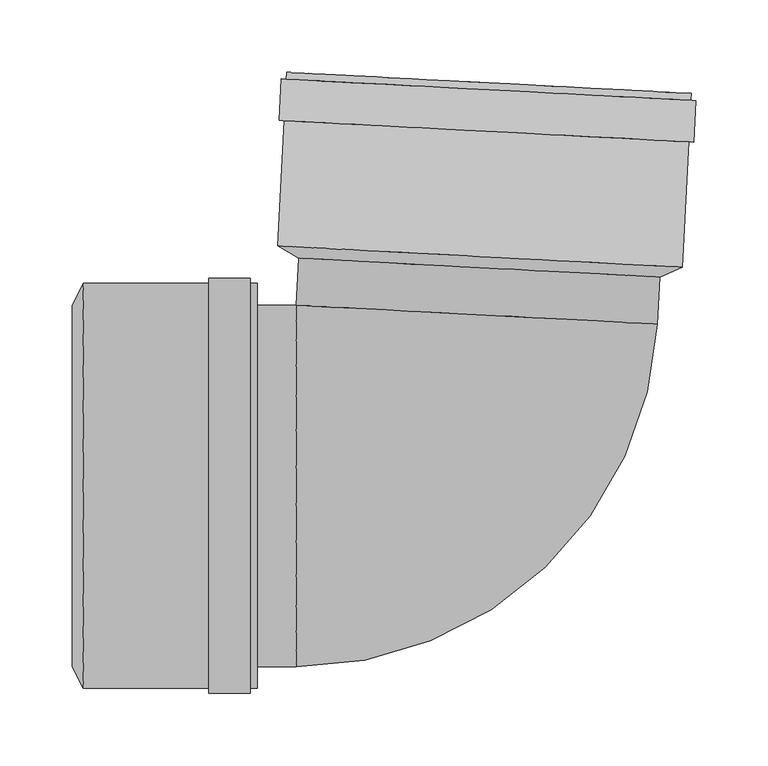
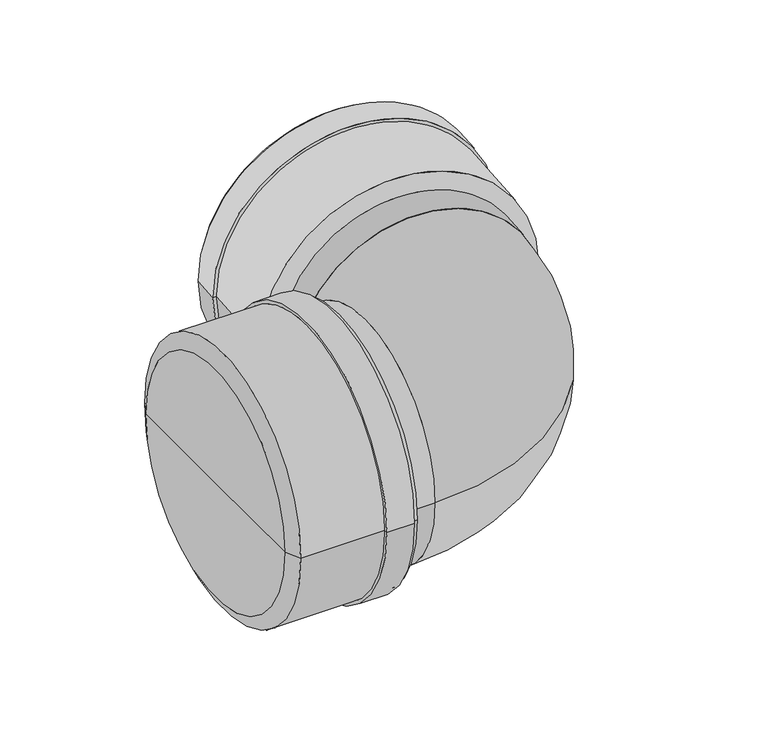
"""IFC4 building model written with IfcOpenShell, lengths in millimetres: pipe fitting geometry, pf_KGB : pf_KGB."""

from ifc_helpers import new_model, si_unit, point, frame, origin, origin_2d, place, context, project, spatial, polyline, circle_curve, ellipse_curve, trimmed, segment, composite_curve, outline, extrude, source, transform, mapped, element, save
from ifc_brep_helpers import plane_surface, cylinder_surface, revolved_surface, advanced_brep


def pipe_fitting_071e107d(model_context):
    return source(origin(), model_context, "Body", "SolidModel", [
        advanced_brep(
        [(132.7418884, 144.4507911, 0.0), (-116.9154953, 157.5347802, 0.0), (-131.5918144, 166.0145005, 0.0), (148.2241813, 151.3499656, 0.0), (7.9131966, 150.9927857, 0.0), (154.5201968, 271.4850986, 0.0), (-125.2957988, 286.1496336, 0.0), (-110.2164929, 285.3593606, 0.0), (139.4408908, 272.2753716, 0.0), (-125.5470114, 281.3562118, 0.0), (154.2689842, 266.6916769, 0.0), (-128.9423518, 281.5341541, 0.0), (157.6643246, 266.5137346, 0.0), (-130.4443938, 252.8734864, 0.0), (156.1622827, 237.853067, 0.0), (-127.0490534, 252.6955442, 0.0), (152.7669423, 238.0310092, 0.0), (133.1448753, 152.1402385, 0.0), (-116.5125084, 165.2242276, 0.0), (8.3161834, 158.6822331, 0.0)],
        [
            (0, 1, circle_curve(frame((7.9131966, 150.9927857, 0.0), z_axis=(0.05233595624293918, 0.9986295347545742, 0.0), x_axis=(-0.9986295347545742, 0.05233595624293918, 0.0)), 125.0)),
            (1, 2),
            (2, 3, circle_curve(frame((8.3161834, 158.6822331, 0.0), z_axis=(-0.05233595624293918, -0.9986295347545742, 0.0), x_axis=(-0.9986295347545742, 0.05233595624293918, 0.0)), 140.1)),
            (3, 0),
            (1, 0, circle_curve(frame((7.9131966, 150.9927857, 0.0), z_axis=(0.05233595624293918, 0.9986295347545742, 0.0), x_axis=(-0.9986295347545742, 0.05233595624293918, 0.0)), 125.0)),
            (3, 2, circle_curve(frame((8.3161834, 158.6822331, 0.0), z_axis=(-0.05233595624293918, -0.9986295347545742, 0.0), x_axis=(-0.9986295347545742, 0.05233595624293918, 0.0)), 140.1)),
            (4, 1),
            (0, 4),
            (5, 6, circle_curve(frame((14.612199, 278.8173661, 0.0), z_axis=(0.05233595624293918, 0.9986295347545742, 0.0), x_axis=(-0.9986295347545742, 0.05233595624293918, 0.0)), 140.1)),
            (6, 7),
            (7, 8, circle_curve(frame((14.612199, 278.8173661, 0.0), z_axis=(-0.05233595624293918, -0.9986295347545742, 0.0), x_axis=(-0.9986295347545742, 0.05233595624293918, 0.0)), 125.0)),
            (8, 5),
            (9, 10, circle_curve(frame((14.3609864, 274.0239443, 0.0), z_axis=(0.05233595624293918, 0.9986295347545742, 0.0), x_axis=(-0.9986295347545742, 0.05233595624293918, 0.0)), 140.1)),
            (10, 5),
            (5, 6, circle_curve(frame((14.612199, 278.8173661, 0.0), z_axis=(-0.05233595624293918, -0.9986295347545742, 0.0), x_axis=(-0.9986295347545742, 0.05233595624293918, 0.0)), 140.1)),
            (6, 9),
            (11, 12, circle_curve(frame((14.3609864, 274.0239443, 0.0), z_axis=(0.05233595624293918, 0.9986295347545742, 0.0), x_axis=(-0.9986295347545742, 0.05233595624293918, 0.0)), 143.5)),
            (12, 10),
            (9, 11),
            (13, 14, circle_curve(frame((12.8589444, 245.3632767, 0.0), z_axis=(0.05233595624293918, 0.9986295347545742, 0.0), x_axis=(-0.9986295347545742, 0.05233595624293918, 0.0)), 143.5)),
            (14, 12),
            (11, 13),
            (15, 16, circle_curve(frame((12.8589444, 245.3632767, 0.0), z_axis=(0.05233595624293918, 0.9986295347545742, 0.0), x_axis=(-0.9986295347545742, 0.05233595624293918, 0.0)), 140.1)),
            (16, 14),
            (13, 15),
            (8, 7, circle_curve(frame((14.612199, 278.8173661, 0.0), z_axis=(-0.05233595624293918, -0.9986295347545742, 0.0), x_axis=(-0.9986295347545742, 0.05233595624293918, 0.0)), 125.0)),
            (10, 9, circle_curve(frame((14.3609864, 274.0239443, 0.0), z_axis=(0.05233595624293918, 0.9986295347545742, 0.0), x_axis=(-0.9986295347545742, 0.05233595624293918, 0.0)), 140.1)),
            (12, 11, circle_curve(frame((14.3609864, 274.0239443, 0.0), z_axis=(0.05233595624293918, 0.9986295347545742, 0.0), x_axis=(-0.9986295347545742, 0.05233595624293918, 0.0)), 143.5)),
            (14, 13, circle_curve(frame((12.8589444, 245.3632767, 0.0), z_axis=(0.05233595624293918, 0.9986295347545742, 0.0), x_axis=(-0.9986295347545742, 0.05233595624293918, 0.0)), 143.5)),
            (16, 15, circle_curve(frame((12.8589444, 245.3632767, 0.0), z_axis=(0.05233595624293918, 0.9986295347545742, 0.0), x_axis=(-0.9986295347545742, 0.05233595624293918, 0.0)), 140.1)),
            (2, 15),
            (16, 3),
            (17, 18, circle_curve(frame((8.3161834, 158.6822331, 0.0), z_axis=(0.05233595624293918, 0.9986295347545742, 0.0), x_axis=(-0.9986295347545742, 0.05233595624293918, 0.0)), 125.0)),
            (18, 19),
            (19, 17),
            (18, 17, circle_curve(frame((8.3161834, 158.6822331, 0.0), z_axis=(0.05233595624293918, 0.9986295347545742, 0.0), x_axis=(-0.9986295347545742, 0.05233595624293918, 0.0)), 125.0)),
            (7, 18),
            (17, 8),
        ],
        [
            revolved_surface(polyline([(-131.5918144, 166.0145005, 0.0), (-116.9154953, 157.5347802, 0.0)]), (7.9131966, 150.9927857, 0.0), (-0.05233595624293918, -0.9986295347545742, 0.0)),
            plane_surface(frame((7.9131966, 150.9927857, 0.0), z_axis=(-0.05233595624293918, -0.9986295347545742, 0.0), x_axis=(-0.9986295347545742, 0.05233595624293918, 0.0))),
            plane_surface(frame((14.612199, 278.8173661, 0.0), z_axis=(0.05233595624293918, 0.9986295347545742, 0.0), x_axis=(-0.9986295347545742, 0.05233595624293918, 0.0))),
            cylinder_surface(frame((7.9131966, 150.9927857, 0.0), z_axis=(-0.05233595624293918, -0.9986295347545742, 0.0), x_axis=(-0.9986295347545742, 0.05233595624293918, 0.0)), 140.1),
            plane_surface(frame((14.3609864, 274.0239443, 0.0), z_axis=(0.05233595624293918, 0.9986295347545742, 0.0), x_axis=(-0.9986295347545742, 0.05233595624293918, 0.0))),
            cylinder_surface(frame((7.9131966, 150.9927857, 0.0), z_axis=(-0.05233595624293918, -0.9986295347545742, 0.0), x_axis=(-0.9986295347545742, 0.05233595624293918, 0.0)), 143.5),
            plane_surface(frame((12.8589444, 245.3632767, 0.0), z_axis=(-0.05233595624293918, -0.9986295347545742, 0.0), x_axis=(-0.9986295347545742, 0.05233595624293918, 0.0))),
            plane_surface(frame((8.3161834, 158.6822331, 0.0), z_axis=(0.05233595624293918, 0.9986295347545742, 0.0), x_axis=(-0.9986295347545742, 0.05233595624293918, 0.0))),
            revolved_surface(polyline([(-116.51250838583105, 165.2242275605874, 0.0), (-110.21649284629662, 285.3593606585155, 0.0)]), (7.9131966, 150.9927857, 0.0), (-0.05233595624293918, -0.9986295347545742, 0.0)),
        ],
        [
            (0, [[1, 2, 3, 4]]),
            (0, [[5, -4, 6, -2]]),
            (1, [[7, -1, 8]]),
            (1, [[-8, -5, -7]]),
            (2, [[9, 10, 11, 12]]),
            (3, [[13, 14, 15, 16]]),
            (4, [[17, 18, -13, 19]]),
            (5, [[20, 21, -17, 22]]),
            (6, [[23, 24, -20, 25]]),
            (2, [[-15, -12, 26, -10]]),
            (3, [[27, -16, -9, -14]]),
            (4, [[28, -19, -27, -18]]),
            (5, [[29, -22, -28, -21]]),
            (6, [[30, -25, -29, -24]]),
            (3, [[-3, 31, -30, 32]]),
            (3, [[-6, -32, -23, -31]]),
            (7, [[33, 34, 35]]),
            (7, [[36, -35, -34]]),
            (8, [[-11, 37, -33, 38]]),
            (8, [[-26, -38, -36, -37]]),
        ],
    ),
        advanced_brep(
        [(-273.7, -125.0, 0.0), (-273.7, 125.0, 0.0), (-266.0, 140.1, 0.0), (-266.0, -140.1, 0.0), (-273.7, 0.0, 0.0), (-145.7, -140.1, 0.0), (-145.7, 140.1, 0.0), (-145.7, 125.0, 0.0), (-145.7, -125.0, 0.0), (-150.5, 140.1, 0.0), (-150.5, -140.1, 0.0), (-150.5, 143.5, 0.0), (-150.5, -143.5, 0.0), (-179.2, 143.5, 0.0), (-179.2, -143.5, 0.0), (-179.2, 140.1, 0.0), (-179.2, -140.1, 0.0), (-266.0, -125.0, 0.0), (-266.0, 125.0, 0.0), (-266.0, 0.0, 0.0)],
        [
            (0, 1, circle_curve(frame((-273.7, 0.0, 0.0), z_axis=(1.0, 0.0, 0.0), x_axis=(0.0, 1.0, 0.0)), 125.0)),
            (1, 2),
            (2, 3, circle_curve(frame((-266.0, 0.0, 0.0), z_axis=(-1.0, 0.0, 0.0), x_axis=(0.0, 1.0, 0.0)), 140.1)),
            (3, 0),
            (1, 0, circle_curve(frame((-273.7, 0.0, 0.0), z_axis=(1.0, 0.0, 0.0), x_axis=(0.0, 1.0, 0.0)), 125.0)),
            (3, 2, circle_curve(frame((-266.0, 0.0, 0.0), z_axis=(-1.0, 0.0, 0.0), x_axis=(0.0, 1.0, 0.0)), 140.1)),
            (4, 1),
            (0, 4),
            (5, 6, circle_curve(frame((-145.7, 0.0, 0.0), z_axis=(1.0, 0.0, 0.0), x_axis=(0.0, 1.0, 0.0)), 140.1)),
            (6, 7),
            (7, 8, circle_curve(frame((-145.7, 0.0, 0.0), z_axis=(-1.0, 0.0, 0.0), x_axis=(0.0, 1.0, 0.0)), 125.0)),
            (8, 5),
            (9, 10, circle_curve(frame((-150.5, 0.0, 0.0), z_axis=(1.0, 0.0, 0.0), x_axis=(0.0, 1.0, 0.0)), 140.1)),
            (10, 5),
            (5, 6, circle_curve(frame((-145.7, 0.0, 0.0), z_axis=(-1.0, 0.0, 0.0), x_axis=(0.0, 1.0, 0.0)), 140.1)),
            (6, 9),
            (11, 12, circle_curve(frame((-150.5, 0.0, 0.0), z_axis=(1.0, 0.0, 0.0), x_axis=(0.0, 1.0, 0.0)), 143.5)),
            (12, 10),
            (9, 11),
            (13, 14, circle_curve(frame((-179.2, 0.0, 0.0), z_axis=(1.0, 0.0, 0.0), x_axis=(0.0, 1.0, 0.0)), 143.5)),
            (14, 12),
            (11, 13),
            (15, 16, circle_curve(frame((-179.2, 0.0, 0.0), z_axis=(1.0, 0.0, 0.0), x_axis=(0.0, 1.0, 0.0)), 140.1)),
            (16, 14),
            (13, 15),
            (8, 7, circle_curve(frame((-145.7, 0.0, 0.0), z_axis=(-1.0, 0.0, 0.0), x_axis=(0.0, 1.0, 0.0)), 125.0)),
            (10, 9, circle_curve(frame((-150.5, 0.0, 0.0), z_axis=(1.0, 0.0, 0.0), x_axis=(0.0, 1.0, 0.0)), 140.1)),
            (12, 11, circle_curve(frame((-150.5, 0.0, 0.0), z_axis=(1.0, 0.0, 0.0), x_axis=(0.0, 1.0, 0.0)), 143.5)),
            (14, 13, circle_curve(frame((-179.2, 0.0, 0.0), z_axis=(1.0, 0.0, 0.0), x_axis=(0.0, 1.0, 0.0)), 143.5)),
            (16, 15, circle_curve(frame((-179.2, 0.0, 0.0), z_axis=(1.0, 0.0, 0.0), x_axis=(0.0, 1.0, 0.0)), 140.1)),
            (2, 15),
            (16, 3),
            (17, 18, circle_curve(frame((-266.0, 0.0, 0.0), z_axis=(1.0, 0.0, 0.0), x_axis=(0.0, 1.0, 0.0)), 125.0)),
            (18, 19),
            (19, 17),
            (18, 17, circle_curve(frame((-266.0, 0.0, 0.0), z_axis=(1.0, 0.0, 0.0), x_axis=(0.0, 1.0, 0.0)), 125.0)),
            (7, 18),
            (17, 8),
        ],
        [
            revolved_surface(polyline([(-266.0, 140.1, 0.0), (-273.7, 125.0, 0.0)]), (-273.7, 0.0, 0.0), (-1.0, 0.0, 0.0)),
            plane_surface(frame((-273.7, 0.0, 0.0), z_axis=(-1.0, 0.0, 0.0), x_axis=(0.0, 1.0, 0.0))),
            plane_surface(frame((-145.7, 0.0, 0.0), z_axis=(1.0, 0.0, 0.0), x_axis=(0.0, 1.0, 0.0))),
            cylinder_surface(frame((-273.7, 0.0, 0.0), z_axis=(-1.0, 0.0, 0.0), x_axis=(0.0, 1.0, 0.0)), 140.1),
            plane_surface(frame((-150.5, 0.0, 0.0), z_axis=(1.0, 0.0, 0.0), x_axis=(0.0, 1.0, 0.0))),
            cylinder_surface(frame((-273.7, 0.0, 0.0), z_axis=(-1.0, 0.0, 0.0), x_axis=(0.0, 1.0, 0.0)), 143.5),
            plane_surface(frame((-179.2, 0.0, 0.0), z_axis=(-1.0, 0.0, 0.0), x_axis=(0.0, 1.0, 0.0))),
            plane_surface(frame((-266.0, 0.0, 0.0), z_axis=(1.0, 0.0, 0.0), x_axis=(0.0, 1.0, 0.0))),
            revolved_surface(polyline([(-266.0, 125.0, 0.0), (-145.7, 125.0, 0.0)]), (-273.7, 0.0, 0.0), (-1.0, 0.0, 0.0)),
        ],
        [
            (0, [[1, 2, 3, 4]]),
            (0, [[5, -4, 6, -2]]),
            (1, [[7, -1, 8]]),
            (1, [[-8, -5, -7]]),
            (2, [[9, 10, 11, 12]]),
            (3, [[13, 14, 15, 16]]),
            (4, [[17, 18, -13, 19]]),
            (5, [[20, 21, -17, 22]]),
            (6, [[23, 24, -20, 25]]),
            (2, [[-15, -12, 26, -10]]),
            (3, [[27, -16, -9, -14]]),
            (4, [[28, -19, -27, -18]]),
            (5, [[29, -22, -28, -21]]),
            (6, [[30, -25, -29, -24]]),
            (3, [[-3, 31, -30, 32]]),
            (3, [[-6, -32, -23, -31]]),
            (7, [[33, 34, 35]]),
            (7, [[36, -35, -34]]),
            (8, [[-11, 37, -33, 38]]),
            (8, [[-26, -38, -36, -37]]),
        ],
    ),
        extrude(outline(composite_curve([segment(trimmed(circle_curve(origin_2d(), 125.0), [point((0.0, -125.0))], [point((0.0, 125.0))], False, "CARTESIAN"), True, "CONTINUOUS"), segment(trimmed(circle_curve(origin_2d(), 125.0), [point((0.0, 125.0))], [point((0.0, -125.0))], False, "CARTESIAN"), True, "CONTINUOUS")], self_intersect=False)), frame((6.208121, 118.4580055, 0.0), z_axis=(0.05233595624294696, 0.9986295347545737, 0.0), x_axis=(0.0, 0.0, 1.0)), (0.0, 0.0, 1.0), 32.5794292),
        extrude(outline(composite_curve([segment(trimmed(circle_curve(origin_2d(), 125.0), [point((-125.0, 0.0))], [point((125.0, 0.0))], False, "CARTESIAN"), True, "CONTINUOUS"), segment(trimmed(circle_curve(origin_2d(), 125.0), [point((125.0, 0.0))], [point((-125.0, 0.0))], False, "CARTESIAN"), True, "CONTINUOUS")], self_intersect=False)), frame((-266.0, 0.0, 0.0), z_axis=(1.0, 0.0, 0.0), x_axis=(0.0, 1.0, 0.0)), (0.0, 0.0, 1.0), 147.3794292),
        advanced_brep(
        [(-118.6205708, -125.0, 0.0), (-118.6205708, 125.0, 0.0), (131.0368128, 111.9160109, 0.0)],
        [
            (0, 1, circle_curve(frame((-118.6205708, 0.0, 0.0), z_axis=(-1.0, 0.0, 0.0), x_axis=(0.0, 1.0, 0.0)), 125.0)),
            (1, 0, circle_curve(frame((-118.6205708, 0.0, 0.0), z_axis=(-1.0, 0.0, 0.0), x_axis=(0.0, 1.0, 0.0)), 125.0)),
            (2, 1, circle_curve(frame((6.208121, 118.4580055, 0.0), z_axis=(0.05233595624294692, 0.9986295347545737, 0.0), x_axis=(-0.9986295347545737, 0.05233595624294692, 0.0)), 125.0)),
            (1, 2, circle_curve(frame((6.208121, 118.4580055, 0.0), z_axis=(0.05233595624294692, 0.9986295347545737, 0.0), x_axis=(-0.9986295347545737, 0.05233595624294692, 0.0)), 125.0)),
            (2, 0, circle_curve(frame((-118.6205708, 125.0, 0.0), z_axis=(0.0, 0.0, -1.0), x_axis=(0.0, -1.0, 0.0)), 250.0)),
        ],
        [
            plane_surface(frame((-118.6205708, 125.0, -14.8), z_axis=(-1.0, 0.0, 0.0), x_axis=(0.0, -1.0, 0.0))),
            plane_surface(frame((-118.6205708, 125.0, -14.8), z_axis=(0.052335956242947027, 0.9986295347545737, 0.0), x_axis=(0.9986295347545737, -0.052335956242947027, 0.0))),
            revolved_surface(trimmed(ellipse_curve(frame((-118.6205708, 0.0, 0.0), z_axis=(1.0, 0.0, 0.0), x_axis=(0.0, 1.0, 0.0)), 125.0, 125.0), [point((-118.6205708, -125.0, 0.0))], [point((-118.6205708, 125.0, 0.0))], True, "CARTESIAN"), (-118.6205708, 125.0, -14.8), (0.0, 0.0, -1.0)),
            revolved_surface(trimmed(ellipse_curve(frame((-118.6205708, 0.0, 0.0), z_axis=(1.0, 0.0, 0.0), x_axis=(0.0, 1.0, 0.0)), 125.0, 125.0), [point((-118.6205708, 125.0, 0.0))], [point((-118.6205708, -125.0, 0.0))], True, "CARTESIAN"), (-118.6205708, 125.0, -14.8), (0.0, 0.0, -1.0)),
        ],
        [
            (0, [[1, 2]]),
            (1, [[3, 4]]),
            (2, [[5, -2, -3]]),
            (3, [[-1, -5, -4]]),
        ],
    ),
    ])


if __name__ == "__main__":
    model = new_model("IFC4")
    model_context = context("Model", 3, world=origin())
    ifc_project = project(units=[si_unit("LENGTHUNIT", "METRE", prefix="MILLI")], contexts=[model_context])
    site = spatial("IfcSite", under=ifc_project)
    building = spatial("IfcBuilding", under=site)
    placement = place(None, origin())
    pipe_fitting_shape = pipe_fitting_071e107d(model_context)
    element("IfcPipeFitting", 1, ObjectType="pf_KGB : pf_KGB", at=placement, inside=building, context=model_context, shape_type="MappedRepresentation", body=[
        mapped(pipe_fitting_shape, transform((0.0, 0.0, 0.0), x_axis=(1.0, 0.0, 0.0), y_axis=(0.0, 1.0, 0.0), z_axis=(0.0, 0.0, 1.0))),
    ])
    save(model, "model.ifc")
